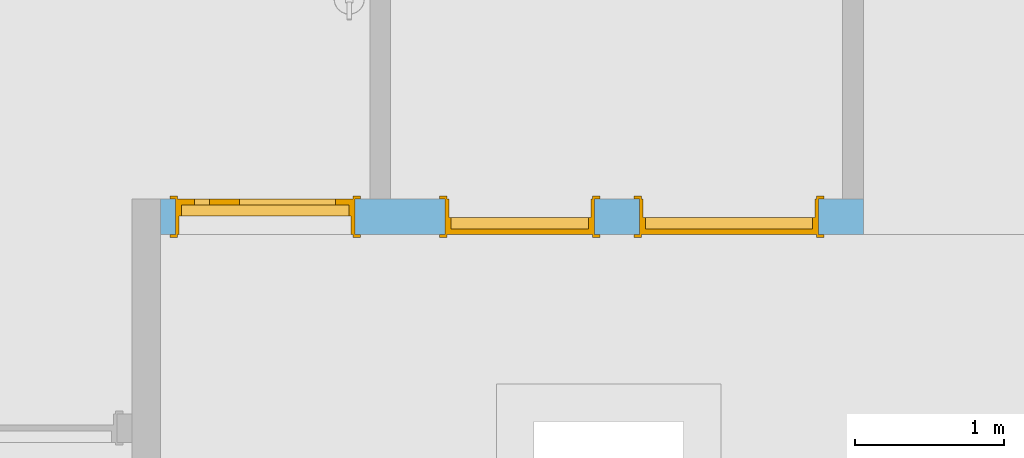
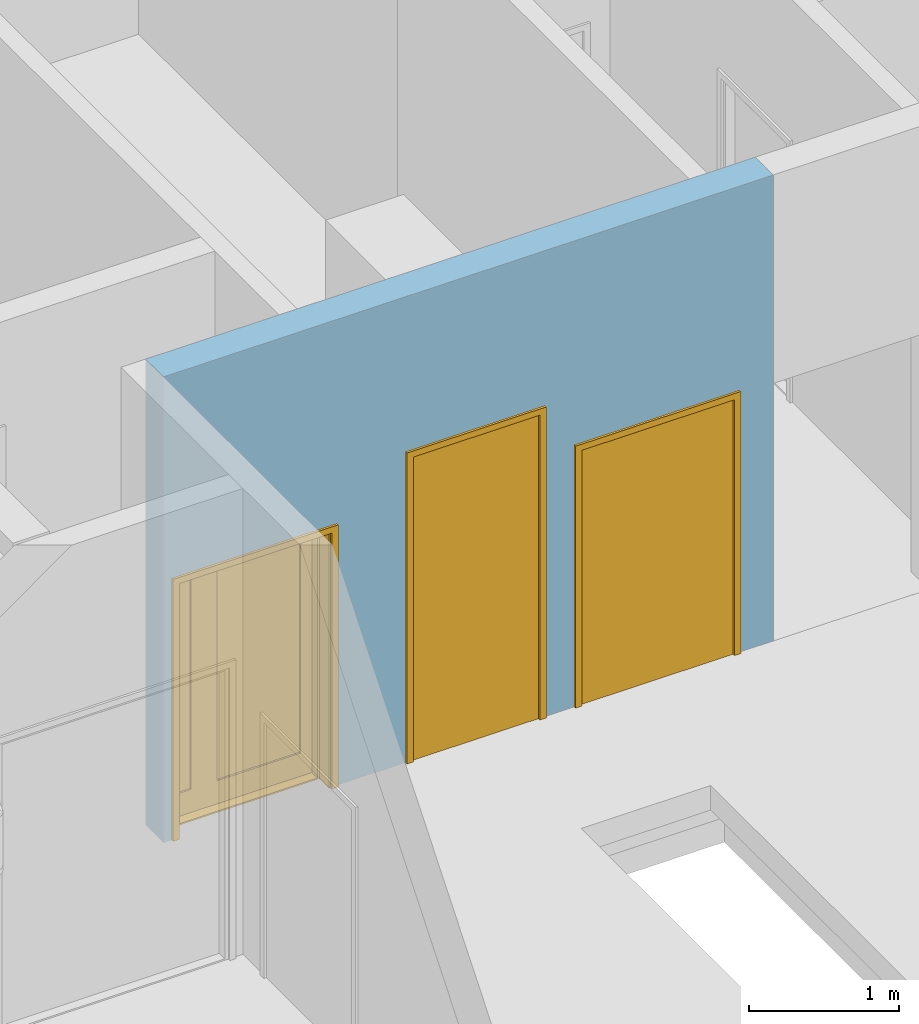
# One storey, part 40 of 112: 3 doors, 3 openings, plus 1 element that does not belong to this part.
"""IFC2X3 building model written with IfcOpenShell, lengths in millimetres."""

from ifc_helpers import new_model, entity, si_unit, converted_unit, derived_unit, money_unit, direction, frame, origin_with_axes, origin_2d_with_axis, place, context, subcontext, project, spatial, polyline, rectangle, outline, extrude, open_shell, faceted_brep, surface_model, material, layer, layer_set, layer_usage, type_object, element, fill, save


model = new_model("IFC2X3")

# Units and contexts
model_context = context("Model", 3, precision=0.01, world=origin_with_axes(), true_north=direction((0.0, 1.0)))
body_context = subcontext(model_context, "Body", "Model", "MODEL_VIEW")
ifc_project = project(units=[si_unit("LENGTHUNIT", "METRE", prefix="MILLI"), si_unit("AREAUNIT", "SQUARE_METRE"), si_unit("VOLUMEUNIT", "CUBIC_METRE"), converted_unit("PLANEANGLEUNIT", "DEGREE", entity("IfcPlaneAngleMeasure", 0.0174532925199), si_unit("PLANEANGLEUNIT", "RADIAN"), dimensions=[0, 0, 0, 0, 0, 0, 0]), si_unit("SOLIDANGLEUNIT", "STERADIAN"), money_unit("EUR"), converted_unit("TIMEUNIT", "Year", entity("IfcTimeMeasure", 31556926.0), si_unit("TIMEUNIT", "SECOND"), dimensions=[0, 0, 1, 0, 0, 0, 0]), si_unit("MASSUNIT", "GRAM", prefix="KILO"), si_unit("THERMODYNAMICTEMPERATUREUNIT", "DEGREE_CELSIUS"), si_unit("LUMINOUSINTENSITYUNIT", "LUMEN"), si_unit("ENERGYUNIT", "JOULE", prefix="MEGA"), derived_unit("THERMALCONDUCTANCEUNIT", [(si_unit("POWERUNIT", "WATT"), 1), (si_unit("LENGTHUNIT", "METRE"), -1), (si_unit("THERMODYNAMICTEMPERATUREUNIT", "KELVIN"), -1)]), derived_unit("SPECIFICHEATCAPACITYUNIT", [(si_unit("ENERGYUNIT", "JOULE"), 1), (si_unit("MASSUNIT", "GRAM", prefix="KILO"), -1), (si_unit("THERMODYNAMICTEMPERATUREUNIT", "KELVIN"), -1)]), derived_unit("MASSDENSITYUNIT", [(si_unit("MASSUNIT", "GRAM", prefix="KILO"), 1), (si_unit("VOLUMEUNIT", "CUBIC_METRE"), -1)])], contexts=[model_context])

# Site, building, storey
site_placement = place(None, origin_with_axes())
site = spatial("IfcSite", under=ifc_project, at=site_placement, Name="Politse- ja Piirivalveameti ning Päästeameti ühishoone", CompositionType="ELEMENT")
building_placement = place(site_placement, origin_with_axes())
building = spatial("IfcBuilding", under=site, at=building_placement, Name="Politse- ja Piirivalveameti ning Päästeameti ühishoone", CompositionType="ELEMENT")
storey_placement = place(building_placement, origin_with_axes())
storey = spatial("IfcBuildingStorey", under=building, at=storey_placement, Name="Esimene korrus", CompositionType="ELEMENT", Elevation=0.0)

# Wall, openings, doors
ifc_material = material(Name="KON-05_Betoon Plokk - Konstuktsioon")
ifc_layer = layer(ifc_material, 240.0, ventilated="UNKNOWN")
ifc_layer_set = layer_set([ifc_layer], Name="SS-04_Sisesein 240")
ifc_layer_usage = layer_usage(ifc_layer_set, "AXIS2", "NEGATIVE", 0.0)
wall_type = type_object("IfcWallType", Name="SS-04_Sisesein 240 240", PredefinedType="NOTDEFINED")
wall_placement = place(storey_placement, frame((26759.7008828, 13000.0198611, 0.0), z_axis=(0.0, 0.0, 1.0), x_axis=(1.0, 0.0, 0.0)))
wall = element("IfcWallStandardCase", 1, at=wall_placement, inside=storey, type_object=wall_type, material=ifc_layer_usage, Name="SS-04", context=body_context, shape_type="SweptSolid", body=[
    extrude(outline(polyline([(0.0, -240.0), (4705.00916667, -240.0), (4705.00916667, 0.0), (0.0, 0.0), (0.0, -240.0)])), origin_with_axes(), (0.0, 0.0, 1.0), 3800.0),
])
opening_1_placement = place(wall_placement, frame((699.995165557, 0.0, 0.0), z_axis=(0.0, 0.0, 1.0), x_axis=(1.0, 0.0, 0.0)))
opening_1 = element("IfcOpeningElement", 2, at=opening_1_placement, cuts=wall, Name="TU-01-1", context=body_context, shape_type="SweptSolid", body=[
    extrude(rectangle(XDim=1200.0, YDim=2100.0, at=origin_2d_with_axis()), frame((0.0, -240.0, 1050.0), z_axis=(0.0, -1.0, 0.0), x_axis=(-1.0, 0.0, 0.0)), (0.0, 0.0, -1.0), 720.0),
    extrude(rectangle(XDim=1274.0, YDim=2137.0, at=origin_2d_with_axis()), frame((0.0, -240.0, 1068.5), z_axis=(0.0, -1.0, 0.0), x_axis=(-1.0, 0.0, 0.0)), (0.0, 0.0, 1.0), 240.0),
    extrude(rectangle(XDim=1274.0, YDim=2137.0, at=origin_2d_with_axis()), frame((0.0, 0.0, 1068.5), z_axis=(0.0, 1.0, 0.0), x_axis=(-1.0, 0.0, 0.0)), (0.0, 0.0, 1.0), 240.0),
])
opening_2_placement = place(wall_placement, frame((3805.23795516, 0.0, 0.0), z_axis=(0.0, 0.0, 1.0), x_axis=(1.0, 0.0, 0.0)))
opening_2 = element("IfcOpeningElement", 3, at=opening_2_placement, cuts=wall, Name="TU-01-2", context=body_context, shape_type="SweptSolid", body=[
    extrude(rectangle(XDim=1200.0, YDim=2100.0, at=origin_2d_with_axis()), frame((0.0, 240.0, 1050.0), z_axis=(0.0, -1.0, 0.0), x_axis=(-1.0, 0.0, 0.0)), (0.0, 0.0, 1.0), 720.0),
    extrude(rectangle(XDim=1274.0, YDim=2137.0, at=origin_2d_with_axis()), frame((0.0, 0.0, 1068.5), z_axis=(0.0, -1.0, 0.0), x_axis=(-1.0, 0.0, 0.0)), (0.0, 0.0, -1.0), 240.0),
    extrude(rectangle(XDim=1274.0, YDim=2137.0, at=origin_2d_with_axis()), frame((0.0, -240.0, 1068.5), z_axis=(0.0, 1.0, 0.0), x_axis=(-1.0, 0.0, 0.0)), (0.0, 0.0, -1.0), 240.0),
])
opening_3_placement = place(wall_placement, frame((2404.80595956, 0.0, 0.0), z_axis=(0.0, 0.0, 1.0), x_axis=(1.0, 0.0, 0.0)))
opening_3 = element("IfcOpeningElement", 4, at=opening_3_placement, cuts=wall, Name="TU-01-12", context=body_context, shape_type="SweptSolid", body=[
    extrude(rectangle(XDim=1000.0, YDim=2500.0, at=origin_2d_with_axis()), frame((0.0, 240.0, 1250.0), z_axis=(0.0, -1.0, 0.0), x_axis=(-1.0, 0.0, 0.0)), (0.0, 0.0, 1.0), 720.0),
    extrude(rectangle(XDim=1074.0, YDim=2537.0, at=origin_2d_with_axis()), frame((0.0, 0.0, 1268.5), z_axis=(0.0, -1.0, 0.0), x_axis=(-1.0, 0.0, 0.0)), (0.0, 0.0, -1.0), 240.0),
    extrude(rectangle(XDim=1074.0, YDim=2537.0, at=origin_2d_with_axis()), frame((0.0, -240.0, 1268.5), z_axis=(0.0, 1.0, 0.0), x_axis=(-1.0, 0.0, 0.0)), (0.0, 0.0, -1.0), 240.0),
])
door_style_1 = type_object("IfcDoorStyle", Name="Double Door Asymmetric 23", ConstructionType="NOTDEFINED", OperationType="DOUBLE_DOOR_SINGLE_SWING", ParameterTakesPrecedence=False, Sizeable=False)
door_1_placement = place(opening_1_placement, frame((-600.0, 0.0, 0.0), z_axis=(0.0, 0.0, 1.0), x_axis=(1.0, 0.0, 0.0)))
door_1 = element("IfcDoor", 5, at=door_1_placement, inside=storey, type_object=door_style_1, Name="TU-01-1", ObjectType="DOOR", OverallHeight=2100.0, OverallWidth=1200.0, context=body_context, shape_type="SurfaceModel", body=[
    faceted_brep([(28.0, -40.0, 0.0), (40.0, -40.0, 0.0), (40.0, -40.0, 12.0), (28.0, -40.0, 12.0), (1172.0, -40.0, 0.0), (1160.0, -40.0, 0.0), (1160.0, -115.0, 0.0), (40.0, -115.0, 0.0), (40.0, -115.0, 12.0), (1160.0, -115.0, 12.0), (1160.0, -40.0, 12.0), (1172.0, -40.0, 12.0)], [[[0, 1, 2, 3]], [[0, 4, 5, 6, 7, 1]], [[1, 7, 8, 2]], [[3, 2, 8, 9, 10, 11]], [[4, 0, 3, 11]], [[5, 4, 11, 10]], [[6, 5, 10, 9]], [[7, 6, 9, 8]]]),
    faceted_brep([(1200.0, -115.0, 0.0), (1200.0, -240.0, 0.0), (1175.0, -240.0, 0.0), (1175.0, -115.0, 0.0), (1200.0, -115.0, 2100.0), (1200.0, -240.0, 2100.0), (1175.0, -240.0, 2075.0), (1175.0, -115.0, 2075.0)], [[[0, 1, 2, 3]], [[4, 5, 1, 0]], [[1, 5, 6, 2]], [[3, 2, 6, 7]], [[0, 3, 7, 4]], [[7, 6, 5, 4]]]),
    faceted_brep([(0.0, -115.0, 2100.0), (0.0, -240.0, 2100.0), (25.0, -240.0, 2075.0), (25.0, -115.0, 2075.0), (0.0, -115.0, 0.0), (0.0, -240.0, 0.0), (25.0, -240.0, 0.0), (25.0, -115.0, 0.0)], [[[0, 1, 2, 3]], [[4, 5, 1, 0]], [[1, 5, 6, 2]], [[3, 2, 6, 7]], [[0, 3, 7, 4]], [[7, 6, 5, 4]]]),
    faceted_brep([(1175.0, -115.0, 2075.0), (1175.0, -240.0, 2075.0), (25.0, -240.0, 2075.0), (25.0, -115.0, 2075.0), (1200.0, -115.0, 2100.0), (1200.0, -240.0, 2100.0), (0.0, -240.0, 2100.0), (0.0, -115.0, 2100.0)], [[[0, 1, 2, 3]], [[4, 5, 1, 0]], [[1, 5, 6, 2]], [[3, 2, 6, 7]], [[0, 3, 7, 4]], [[7, 6, 5, 4]]]),
    faceted_brep([(1237.0, -259.0, 0.0), (1187.0, -259.0, 0.0), (1187.0, -240.0, 0.0), (1237.0, -240.0, 0.0), (1237.0, -259.0, 2137.0), (1187.0, -259.0, 2087.0), (1187.0, -240.0, 2087.0), (1237.0, -240.0, 2137.0)], [[[0, 1, 2, 3]], [[0, 4, 5, 1]], [[1, 5, 6, 2]], [[3, 2, 6, 7]], [[4, 0, 3, 7]], [[5, 4, 7, 6]]]),
    faceted_brep([(-37.0, -259.0, 2137.0), (13.0, -259.0, 2087.0), (13.0, -240.0, 2087.0), (-37.0, -240.0, 2137.0), (-37.0, -259.0, 0.0), (13.0, -259.0, 0.0), (13.0, -240.0, 0.0), (-37.0, -240.0, 0.0)], [[[0, 1, 2, 3]], [[0, 4, 5, 1]], [[1, 5, 6, 2]], [[3, 2, 6, 7]], [[4, 0, 3, 7]], [[5, 4, 7, 6]]]),
    faceted_brep([(1237.0, -259.0, 2137.0), (1187.0, -259.0, 2087.0), (1187.0, -240.0, 2087.0), (1237.0, -240.0, 2137.0), (-37.0, -259.0, 2137.0), (13.0, -259.0, 2087.0), (13.0, -240.0, 2087.0), (-37.0, -240.0, 2137.0)], [[[0, 1, 2, 3]], [[0, 4, 5, 1]], [[1, 5, 6, 2]], [[3, 2, 6, 7]], [[4, 0, 3, 7]], [[5, 4, 7, 6]]]),
    faceted_brep([(1237.0, 19.0, 0.0), (1237.0, 0.0, 0.0), (1187.0, 0.0, 0.0), (1187.0, 19.0, 0.0), (1237.0, 19.0, 2137.0), (1237.0, 0.0, 2137.0), (1187.0, 0.0, 2087.0), (1187.0, 19.0, 2087.0)], [[[0, 1, 2, 3]], [[4, 5, 1, 0]], [[1, 5, 6, 2]], [[3, 2, 6, 7]], [[0, 3, 7, 4]], [[7, 6, 5, 4]]]),
    faceted_brep([(-37.0, 19.0, 2137.0), (-37.0, 0.0, 2137.0), (13.0, 0.0, 2087.0), (13.0, 19.0, 2087.0), (-37.0, 19.0, 0.0), (-37.0, 0.0, 0.0), (13.0, 0.0, 0.0), (13.0, 19.0, 0.0)], [[[0, 1, 2, 3]], [[4, 5, 1, 0]], [[1, 5, 6, 2]], [[3, 2, 6, 7]], [[0, 3, 7, 4]], [[7, 6, 5, 4]]]),
    faceted_brep([(1237.0, 19.0, 2137.0), (1237.0, 0.0, 2137.0), (1187.0, 0.0, 2087.0), (1187.0, 19.0, 2087.0), (-37.0, 19.0, 2137.0), (-37.0, 0.0, 2137.0), (13.0, 0.0, 2087.0), (13.0, 19.0, 2087.0)], [[[0, 1, 2, 3]], [[4, 5, 1, 0]], [[1, 5, 6, 2]], [[3, 2, 6, 7]], [[0, 3, 7, 4]], [[7, 6, 5, 4]]]),
    faceted_brep([(1160.0, -40.0, 0.0), (1160.0, -115.0, 0.0), (1160.0, -115.0, 2060.0), (1160.0, -40.0, 2060.0), (1172.0, -40.0, 0.0), (1172.0, 0.0, 0.0), (1200.0, 0.0, 0.0), (1200.0, -115.0, 0.0), (1200.0, -115.0, 2060.0), (1172.0, -40.0, 2060.0), (1200.0, 0.0, 2060.0), (1172.0, 0.0, 2060.0)], [[[0, 1, 2, 3]], [[4, 5, 6, 7, 1, 0]], [[1, 7, 8, 2]], [[9, 3, 2, 8, 10, 11]], [[9, 4, 0, 3]], [[11, 5, 4, 9]], [[11, 10, 6, 5]], [[6, 10, 8, 7]]]),
    faceted_brep([(28.0, -40.0, 2060.0), (28.0, 0.0, 2060.0), (0.0, 0.0, 2060.0), (0.0, -115.0, 2060.0), (40.0, -115.0, 2060.0), (40.0, -40.0, 2060.0), (28.0, -40.0, 0.0), (28.0, 0.0, 0.0), (0.0, 0.0, 0.0), (0.0, -115.0, 0.0), (40.0, -115.0, 0.0), (40.0, -40.0, 0.0)], [[[0, 1, 2, 3, 4, 5]], [[0, 6, 7, 1]], [[7, 8, 2, 1]], [[2, 8, 9, 3]], [[3, 9, 10, 4]], [[5, 4, 10, 11]], [[5, 11, 6, 0]], [[6, 11, 10, 9, 8, 7]]]),
    faceted_brep([(1172.0, 0.0, 2072.0), (28.0, 0.0, 2072.0), (28.0, 0.0, 2060.0), (0.0, 0.0, 2060.0), (0.0, 0.0, 2100.0), (1200.0, 0.0, 2100.0), (1200.0, 0.0, 2060.0), (1172.0, 0.0, 2060.0), (1172.0, -40.0, 2072.0), (28.0, -40.0, 2072.0), (28.0, -40.0, 2060.0), (40.0, -40.0, 2060.0), (40.0, -115.0, 2060.0), (0.0, -115.0, 2060.0), (0.0, -115.0, 2100.0), (1200.0, -115.0, 2100.0), (1200.0, -115.0, 2060.0), (1172.0, -40.0, 2060.0), (1160.0, -115.0, 2060.0), (1160.0, -40.0, 2060.0)], [[[0, 1, 2, 3, 4, 5, 6, 7]], [[0, 8, 9, 1]], [[1, 9, 10, 2]], [[10, 11, 12, 13, 3, 2]], [[4, 3, 13, 14]], [[5, 4, 14, 15]], [[6, 5, 15, 16]], [[17, 7, 6, 16, 18, 19]], [[7, 17, 8, 0]], [[10, 9, 8, 17, 19, 11]], [[19, 18, 12, 11]], [[12, 18, 16, 15, 14, 13]]]),
    faceted_brep([(28.0, 0.0, 200.0), (128.0, 0.0, 200.0), (128.0, -40.0, 200.0), (28.0, -40.0, 200.0), (28.0, 0.0, 1972.0), (128.0, 0.0, 1972.0), (128.0, -40.0, 1972.0), (28.0, -40.0, 1972.0)], [[[0, 1, 2, 3]], [[0, 4, 5, 1]], [[1, 5, 6, 2]], [[3, 2, 6, 7]], [[4, 0, 3, 7]], [[5, 4, 7, 6]]]),
    faceted_brep([(328.0, 0.0, 200.0), (328.0, 0.0, 1972.0), (328.0, -40.0, 1972.0), (328.0, -40.0, 200.0), (228.0, 0.0, 200.0), (228.0, 0.0, 1972.0), (228.0, -40.0, 1972.0), (228.0, -40.0, 200.0)], [[[0, 1, 2, 3]], [[0, 4, 5, 1]], [[1, 5, 6, 2]], [[3, 2, 6, 7]], [[4, 0, 3, 7]], [[5, 4, 7, 6]]]),
    faceted_brep([(28.0, 0.0, 0.0), (328.0, 0.0, 0.0), (328.0, -40.0, 0.0), (28.0, -40.0, 0.0), (28.0, 0.0, 200.0), (128.0, 0.0, 200.0), (228.0, 0.0, 200.0), (328.0, 0.0, 200.0), (328.0, -40.0, 200.0), (228.0, -40.0, 200.0), (128.0, -40.0, 200.0), (28.0, -40.0, 200.0)], [[[0, 1, 2, 3]], [[0, 4, 5, 6, 7, 1]], [[1, 7, 8, 2]], [[3, 2, 8, 9, 10, 11]], [[4, 0, 3, 11]], [[5, 4, 11, 10]], [[6, 5, 10, 9]], [[7, 6, 9, 8]]]),
    faceted_brep([(28.0, 0.0, 2072.0), (28.0, 0.0, 1972.0), (28.0, -40.0, 1972.0), (28.0, -40.0, 2072.0), (328.0, 0.0, 2072.0), (328.0, 0.0, 1972.0), (228.0, 0.0, 1972.0), (128.0, 0.0, 1972.0), (128.0, -40.0, 1972.0), (228.0, -40.0, 1972.0), (328.0, -40.0, 1972.0), (328.0, -40.0, 2072.0)], [[[0, 1, 2, 3]], [[0, 4, 5, 6, 7, 1]], [[1, 7, 8, 2]], [[3, 2, 8, 9, 10, 11]], [[4, 0, 3, 11]], [[5, 4, 11, 10]], [[6, 5, 10, 9]], [[7, 6, 9, 8]]]),
    surface_model("IfcShellBasedSurfaceModel", [(128.0, -14.0, 200.0), (128.0, -14.0, 1972.0), (228.0, -14.0, 1972.0), (228.0, -14.0, 200.0)], [open_shell([[[0, 1, 2, 3]]])]),
    surface_model("IfcShellBasedSurfaceModel", [(128.0, -26.0, 200.0), (228.0, -26.0, 200.0), (228.0, -26.0, 1972.0), (128.0, -26.0, 1972.0)], [open_shell([[[0, 1, 2, 3]]])]),
    faceted_brep([(1172.0, 0.0, 200.0), (1172.0, -40.0, 200.0), (1072.0, -40.0, 200.0), (1072.0, 0.0, 200.0), (1172.0, 0.0, 1972.0), (1172.0, -40.0, 1972.0), (1072.0, -40.0, 1972.0), (1072.0, 0.0, 1972.0)], [[[0, 1, 2, 3]], [[4, 5, 1, 0]], [[1, 5, 6, 2]], [[3, 2, 6, 7]], [[0, 3, 7, 4]], [[7, 6, 5, 4]]]),
    faceted_brep([(328.0, 0.0, 200.0), (328.0, -40.0, 200.0), (328.0, -40.0, 1972.0), (328.0, 0.0, 1972.0), (428.0, 0.0, 200.0), (428.0, -40.0, 200.0), (428.0, -40.0, 1972.0), (428.0, 0.0, 1972.0)], [[[0, 1, 2, 3]], [[4, 5, 1, 0]], [[1, 5, 6, 2]], [[3, 2, 6, 7]], [[0, 3, 7, 4]], [[7, 6, 5, 4]]]),
    faceted_brep([(1172.0, 0.0, 0.0), (1172.0, -40.0, 0.0), (328.0, -40.0, 0.0), (328.0, 0.0, 0.0), (1172.0, 0.0, 200.0), (1172.0, -40.0, 200.0), (1072.0, -40.0, 200.0), (428.0, -40.0, 200.0), (328.0, -40.0, 200.0), (328.0, 0.0, 200.0), (428.0, 0.0, 200.0), (1072.0, 0.0, 200.0)], [[[0, 1, 2, 3]], [[4, 5, 1, 0]], [[1, 5, 6, 7, 8, 2]], [[3, 2, 8, 9]], [[0, 3, 9, 10, 11, 4]], [[11, 6, 5, 4]], [[10, 7, 6, 11]], [[9, 8, 7, 10]]]),
    faceted_brep([(1172.0, 0.0, 2072.0), (1172.0, -40.0, 2072.0), (1172.0, -40.0, 1972.0), (1172.0, 0.0, 1972.0), (328.0, 0.0, 2072.0), (328.0, -40.0, 2072.0), (328.0, -40.0, 1972.0), (428.0, -40.0, 1972.0), (1072.0, -40.0, 1972.0), (1072.0, 0.0, 1972.0), (428.0, 0.0, 1972.0), (328.0, 0.0, 1972.0)], [[[0, 1, 2, 3]], [[4, 5, 1, 0]], [[1, 5, 6, 7, 8, 2]], [[3, 2, 8, 9]], [[0, 3, 9, 10, 11, 4]], [[11, 6, 5, 4]], [[10, 7, 6, 11]], [[9, 8, 7, 10]]]),
    surface_model("IfcShellBasedSurfaceModel", [(1072.0, -14.0, 200.0), (428.0, -14.0, 200.0), (428.0, -14.0, 1972.0), (1072.0, -14.0, 1972.0)], [open_shell([[[0, 1, 2, 3]]])]),
    surface_model("IfcShellBasedSurfaceModel", [(1072.0, -26.0, 200.0), (1072.0, -26.0, 1972.0), (428.0, -26.0, 1972.0), (428.0, -26.0, 200.0)], [open_shell([[[0, 1, 2, 3]]])]),
])
fill(opening_1, door_1)
door_style_2 = type_object("IfcDoorStyle", Name="Double Door Asymmetric 23", ConstructionType="NOTDEFINED", OperationType="DOUBLE_DOOR_SINGLE_SWING", ParameterTakesPrecedence=False, Sizeable=False)
door_2_placement = place(opening_2_placement, frame((600.0, 0.0, 0.0), z_axis=(0.0, 0.0, 1.0), x_axis=(-1.0, 0.0, 0.0)))
door_2 = element("IfcDoor", 6, at=door_2_placement, inside=storey, type_object=door_style_2, Name="TU-01-2", ObjectType="DOOR", OverallHeight=2100.0, OverallWidth=1200.0, context=body_context, shape_type="Brep", body=[
    faceted_brep([(1172.0, 200.0, 0.0), (1172.0, 200.0, 12.0), (1160.0, 200.0, 12.0), (1160.0, 200.0, 0.0), (28.0, 200.0, 0.0), (28.0, 200.0, 12.0), (40.0, 200.0, 12.0), (40.0, 125.0, 12.0), (1160.0, 125.0, 12.0), (1160.0, 125.0, 0.0), (40.0, 125.0, 0.0), (40.0, 200.0, 0.0)], [[[0, 1, 2, 3]], [[4, 5, 1, 0]], [[1, 5, 6, 7, 8, 2]], [[3, 2, 8, 9]], [[0, 3, 9, 10, 11, 4]], [[11, 6, 5, 4]], [[10, 7, 6, 11]], [[9, 8, 7, 10]]]),
    faceted_brep([(0.0, 125.0, 0.0), (25.0, 125.0, 0.0), (25.0, 0.0, 0.0), (0.0, 0.0, 0.0), (0.0, 125.0, 2100.0), (25.0, 125.0, 2075.0), (25.0, 0.0, 2075.0), (0.0, 0.0, 2100.0)], [[[0, 1, 2, 3]], [[0, 4, 5, 1]], [[1, 5, 6, 2]], [[3, 2, 6, 7]], [[4, 0, 3, 7]], [[5, 4, 7, 6]]]),
    faceted_brep([(1200.0, 125.0, 2100.0), (1175.0, 125.0, 2075.0), (1175.0, 0.0, 2075.0), (1200.0, 0.0, 2100.0), (1200.0, 125.0, 0.0), (1175.0, 125.0, 0.0), (1175.0, 0.0, 0.0), (1200.0, 0.0, 0.0)], [[[0, 1, 2, 3]], [[0, 4, 5, 1]], [[1, 5, 6, 2]], [[3, 2, 6, 7]], [[4, 0, 3, 7]], [[5, 4, 7, 6]]]),
    faceted_brep([(25.0, 125.0, 2075.0), (1175.0, 125.0, 2075.0), (1175.0, 0.0, 2075.0), (25.0, 0.0, 2075.0), (0.0, 125.0, 2100.0), (1200.0, 125.0, 2100.0), (1200.0, 0.0, 2100.0), (0.0, 0.0, 2100.0)], [[[0, 1, 2, 3]], [[0, 4, 5, 1]], [[1, 5, 6, 2]], [[3, 2, 6, 7]], [[4, 0, 3, 7]], [[5, 4, 7, 6]]]),
    faceted_brep([(-37.0, -19.0, 0.0), (-37.0, 0.0, 0.0), (13.0, 0.0, 0.0), (13.0, -19.0, 0.0), (-37.0, -19.0, 2137.0), (-37.0, 0.0, 2137.0), (13.0, 0.0, 2087.0), (13.0, -19.0, 2087.0)], [[[0, 1, 2, 3]], [[4, 5, 1, 0]], [[1, 5, 6, 2]], [[3, 2, 6, 7]], [[0, 3, 7, 4]], [[7, 6, 5, 4]]]),
    faceted_brep([(1237.0, -19.0, 2137.0), (1237.0, 0.0, 2137.0), (1187.0, 0.0, 2087.0), (1187.0, -19.0, 2087.0), (1237.0, -19.0, 0.0), (1237.0, 0.0, 0.0), (1187.0, 0.0, 0.0), (1187.0, -19.0, 0.0)], [[[0, 1, 2, 3]], [[4, 5, 1, 0]], [[1, 5, 6, 2]], [[3, 2, 6, 7]], [[0, 3, 7, 4]], [[7, 6, 5, 4]]]),
    faceted_brep([(-37.0, -19.0, 2137.0), (-37.0, 0.0, 2137.0), (13.0, 0.0, 2087.0), (13.0, -19.0, 2087.0), (1237.0, -19.0, 2137.0), (1237.0, 0.0, 2137.0), (1187.0, 0.0, 2087.0), (1187.0, -19.0, 2087.0)], [[[0, 1, 2, 3]], [[4, 5, 1, 0]], [[1, 5, 6, 2]], [[3, 2, 6, 7]], [[0, 3, 7, 4]], [[7, 6, 5, 4]]]),
    faceted_brep([(-37.0, 259.0, 0.0), (13.0, 259.0, 0.0), (13.0, 240.0, 0.0), (-37.0, 240.0, 0.0), (-37.0, 259.0, 2137.0), (13.0, 259.0, 2087.0), (13.0, 240.0, 2087.0), (-37.0, 240.0, 2137.0)], [[[0, 1, 2, 3]], [[0, 4, 5, 1]], [[1, 5, 6, 2]], [[3, 2, 6, 7]], [[4, 0, 3, 7]], [[5, 4, 7, 6]]]),
    faceted_brep([(1237.0, 259.0, 2137.0), (1187.0, 259.0, 2087.0), (1187.0, 240.0, 2087.0), (1237.0, 240.0, 2137.0), (1237.0, 259.0, 0.0), (1187.0, 259.0, 0.0), (1187.0, 240.0, 0.0), (1237.0, 240.0, 0.0)], [[[0, 1, 2, 3]], [[0, 4, 5, 1]], [[1, 5, 6, 2]], [[3, 2, 6, 7]], [[4, 0, 3, 7]], [[5, 4, 7, 6]]]),
    faceted_brep([(-37.0, 259.0, 2137.0), (13.0, 259.0, 2087.0), (13.0, 240.0, 2087.0), (-37.0, 240.0, 2137.0), (1237.0, 259.0, 2137.0), (1187.0, 259.0, 2087.0), (1187.0, 240.0, 2087.0), (1237.0, 240.0, 2137.0)], [[[0, 1, 2, 3]], [[0, 4, 5, 1]], [[1, 5, 6, 2]], [[3, 2, 6, 7]], [[4, 0, 3, 7]], [[5, 4, 7, 6]]]),
    faceted_brep([(40.0, 200.0, 0.0), (40.0, 200.0, 2060.0), (40.0, 125.0, 2060.0), (40.0, 125.0, 0.0), (28.0, 200.0, 2060.0), (28.0, 200.0, 0.0), (28.0, 240.0, 2060.0), (0.0, 240.0, 2060.0), (0.0, 125.0, 2060.0), (0.0, 125.0, 0.0), (0.0, 240.0, 0.0), (28.0, 240.0, 0.0)], [[[0, 1, 2, 3]], [[4, 1, 0, 5]], [[4, 6, 7, 8, 2, 1]], [[3, 2, 8, 9]], [[5, 0, 3, 9, 10, 11]], [[6, 4, 5, 11]], [[6, 11, 10, 7]], [[10, 9, 8, 7]]]),
    faceted_brep([(1172.0, 200.0, 2060.0), (1160.0, 200.0, 2060.0), (1160.0, 125.0, 2060.0), (1200.0, 125.0, 2060.0), (1200.0, 240.0, 2060.0), (1172.0, 240.0, 2060.0), (1172.0, 200.0, 0.0), (1160.0, 200.0, 0.0), (1160.0, 125.0, 0.0), (1200.0, 125.0, 0.0), (1200.0, 240.0, 0.0), (1172.0, 240.0, 0.0)], [[[0, 1, 2, 3, 4, 5]], [[1, 0, 6, 7]], [[1, 7, 8, 2]], [[3, 2, 8, 9]], [[4, 3, 9, 10]], [[11, 5, 4, 10]], [[0, 5, 11, 6]], [[6, 11, 10, 9, 8, 7]]]),
    faceted_brep([(28.0, 240.0, 2072.0), (28.0, 240.0, 2060.0), (0.0, 240.0, 2060.0), (0.0, 240.0, 2100.0), (1200.0, 240.0, 2100.0), (1200.0, 240.0, 2060.0), (1172.0, 240.0, 2060.0), (1172.0, 240.0, 2072.0), (28.0, 200.0, 2072.0), (28.0, 200.0, 2060.0), (40.0, 200.0, 2060.0), (40.0, 125.0, 2060.0), (0.0, 125.0, 2060.0), (0.0, 125.0, 2100.0), (1200.0, 125.0, 2100.0), (1200.0, 125.0, 2060.0), (1172.0, 200.0, 2060.0), (1160.0, 125.0, 2060.0), (1160.0, 200.0, 2060.0), (1172.0, 200.0, 2072.0)], [[[0, 1, 2, 3, 4, 5, 6, 7]], [[1, 0, 8, 9]], [[9, 10, 11, 12, 2, 1]], [[2, 12, 13, 3]], [[3, 13, 14, 4]], [[4, 14, 15, 5]], [[16, 6, 5, 15, 17, 18]], [[7, 6, 16, 19]], [[0, 7, 19, 8]], [[16, 18, 10, 9, 8, 19]], [[10, 18, 17, 11]], [[17, 15, 14, 13, 12, 11]]]),
    faceted_brep([(1172.0, 240.0, 0.0), (1172.0, 200.0, 0.0), (872.0, 200.0, 0.0), (872.0, 240.0, 0.0), (1172.0, 240.0, 2072.0), (1172.0, 200.0, 2072.0), (872.0, 200.0, 2072.0), (872.0, 240.0, 2072.0)], [[[0, 1, 2, 3]], [[4, 5, 1, 0]], [[1, 5, 6, 2]], [[3, 2, 6, 7]], [[0, 3, 7, 4]], [[7, 6, 5, 4]]]),
    faceted_brep([(28.0, 240.0, 0.0), (872.0, 240.0, 0.0), (872.0, 200.0, 0.0), (28.0, 200.0, 0.0), (28.0, 240.0, 2072.0), (872.0, 240.0, 2072.0), (872.0, 200.0, 2072.0), (28.0, 200.0, 2072.0)], [[[0, 1, 2, 3]], [[0, 4, 5, 1]], [[1, 5, 6, 2]], [[3, 2, 6, 7]], [[4, 0, 3, 7]], [[5, 4, 7, 6]]]),
])
fill(opening_2, door_2)
door_style_3 = type_object("IfcDoorStyle", Name="Door 23", ConstructionType="NOTDEFINED", OperationType="SINGLE_SWING_RIGHT", ParameterTakesPrecedence=False, Sizeable=False)
door_3_placement = place(opening_3_placement, frame((500.0, 0.0, 0.0), z_axis=(0.0, 0.0, 1.0), x_axis=(-1.0, 0.0, 0.0)))
door_3 = element("IfcDoor", 7, at=door_3_placement, inside=storey, type_object=door_style_3, Name="TU-01-12", ObjectType="DOOR", OverallHeight=2500.0, OverallWidth=1000.0, context=body_context, shape_type="Brep", body=[
    faceted_brep([(972.0, 200.0, 0.0), (972.0, 200.0, 12.0), (960.0, 200.0, 12.0), (960.0, 200.0, 0.0), (28.0, 200.0, 0.0), (28.0, 200.0, 12.0), (40.0, 200.0, 12.0), (40.0, 125.0, 12.0), (960.0, 125.0, 12.0), (960.0, 125.0, 0.0), (40.0, 125.0, 0.0), (40.0, 200.0, 0.0)], [[[0, 1, 2, 3]], [[4, 5, 1, 0]], [[1, 5, 6, 7, 8, 2]], [[3, 2, 8, 9]], [[0, 3, 9, 10, 11, 4]], [[11, 6, 5, 4]], [[10, 7, 6, 11]], [[9, 8, 7, 10]]]),
    faceted_brep([(0.0, 125.0, 0.0), (25.0, 125.0, 0.0), (25.0, 0.0, 0.0), (0.0, 0.0, 0.0), (0.0, 125.0, 2500.0), (25.0, 125.0, 2475.0), (25.0, 0.0, 2475.0), (0.0, 0.0, 2500.0)], [[[0, 1, 2, 3]], [[0, 4, 5, 1]], [[1, 5, 6, 2]], [[3, 2, 6, 7]], [[4, 0, 3, 7]], [[5, 4, 7, 6]]]),
    faceted_brep([(1000.0, 125.0, 2500.0), (975.0, 125.0, 2475.0), (975.0, 0.0, 2475.0), (1000.0, 0.0, 2500.0), (1000.0, 125.0, 0.0), (975.0, 125.0, 0.0), (975.0, 0.0, 0.0), (1000.0, 0.0, 0.0)], [[[0, 1, 2, 3]], [[0, 4, 5, 1]], [[1, 5, 6, 2]], [[3, 2, 6, 7]], [[4, 0, 3, 7]], [[5, 4, 7, 6]]]),
    faceted_brep([(25.0, 125.0, 2475.0), (975.0, 125.0, 2475.0), (975.0, 0.0, 2475.0), (25.0, 0.0, 2475.0), (0.0, 125.0, 2500.0), (1000.0, 125.0, 2500.0), (1000.0, 0.0, 2500.0), (0.0, 0.0, 2500.0)], [[[0, 1, 2, 3]], [[0, 4, 5, 1]], [[1, 5, 6, 2]], [[3, 2, 6, 7]], [[4, 0, 3, 7]], [[5, 4, 7, 6]]]),
    faceted_brep([(-37.0, -19.0, 0.0), (-37.0, 0.0, 0.0), (13.0, 0.0, 0.0), (13.0, -19.0, 0.0), (-37.0, -19.0, 2537.0), (-37.0, 0.0, 2537.0), (13.0, 0.0, 2487.0), (13.0, -19.0, 2487.0)], [[[0, 1, 2, 3]], [[4, 5, 1, 0]], [[1, 5, 6, 2]], [[3, 2, 6, 7]], [[0, 3, 7, 4]], [[7, 6, 5, 4]]]),
    faceted_brep([(1037.0, -19.0, 2537.0), (1037.0, 0.0, 2537.0), (987.0, 0.0, 2487.0), (987.0, -19.0, 2487.0), (1037.0, -19.0, 0.0), (1037.0, 0.0, 0.0), (987.0, 0.0, 0.0), (987.0, -19.0, 0.0)], [[[0, 1, 2, 3]], [[4, 5, 1, 0]], [[1, 5, 6, 2]], [[3, 2, 6, 7]], [[0, 3, 7, 4]], [[7, 6, 5, 4]]]),
    faceted_brep([(-37.0, -19.0, 2537.0), (-37.0, 0.0, 2537.0), (13.0, 0.0, 2487.0), (13.0, -19.0, 2487.0), (1037.0, -19.0, 2537.0), (1037.0, 0.0, 2537.0), (987.0, 0.0, 2487.0), (987.0, -19.0, 2487.0)], [[[0, 1, 2, 3]], [[4, 5, 1, 0]], [[1, 5, 6, 2]], [[3, 2, 6, 7]], [[0, 3, 7, 4]], [[7, 6, 5, 4]]]),
    faceted_brep([(-37.0, 259.0, 0.0), (13.0, 259.0, 0.0), (13.0, 240.0, 0.0), (-37.0, 240.0, 0.0), (-37.0, 259.0, 2537.0), (13.0, 259.0, 2487.0), (13.0, 240.0, 2487.0), (-37.0, 240.0, 2537.0)], [[[0, 1, 2, 3]], [[0, 4, 5, 1]], [[1, 5, 6, 2]], [[3, 2, 6, 7]], [[4, 0, 3, 7]], [[5, 4, 7, 6]]]),
    faceted_brep([(1037.0, 259.0, 2537.0), (987.0, 259.0, 2487.0), (987.0, 240.0, 2487.0), (1037.0, 240.0, 2537.0), (1037.0, 259.0, 0.0), (987.0, 259.0, 0.0), (987.0, 240.0, 0.0), (1037.0, 240.0, 0.0)], [[[0, 1, 2, 3]], [[0, 4, 5, 1]], [[1, 5, 6, 2]], [[3, 2, 6, 7]], [[4, 0, 3, 7]], [[5, 4, 7, 6]]]),
    faceted_brep([(-37.0, 259.0, 2537.0), (13.0, 259.0, 2487.0), (13.0, 240.0, 2487.0), (-37.0, 240.0, 2537.0), (1037.0, 259.0, 2537.0), (987.0, 259.0, 2487.0), (987.0, 240.0, 2487.0), (1037.0, 240.0, 2537.0)], [[[0, 1, 2, 3]], [[0, 4, 5, 1]], [[1, 5, 6, 2]], [[3, 2, 6, 7]], [[4, 0, 3, 7]], [[5, 4, 7, 6]]]),
    faceted_brep([(40.0, 200.0, 0.0), (40.0, 200.0, 2460.0), (40.0, 125.0, 2460.0), (40.0, 125.0, 0.0), (28.0, 200.0, 2460.0), (28.0, 200.0, 0.0), (28.0, 240.0, 2460.0), (0.0, 240.0, 2460.0), (0.0, 125.0, 2460.0), (0.0, 125.0, 0.0), (0.0, 240.0, 0.0), (28.0, 240.0, 0.0)], [[[0, 1, 2, 3]], [[4, 1, 0, 5]], [[4, 6, 7, 8, 2, 1]], [[3, 2, 8, 9]], [[5, 0, 3, 9, 10, 11]], [[6, 4, 5, 11]], [[6, 11, 10, 7]], [[10, 9, 8, 7]]]),
    faceted_brep([(972.0, 200.0, 2460.0), (960.0, 200.0, 2460.0), (960.0, 125.0, 2460.0), (1000.0, 125.0, 2460.0), (1000.0, 240.0, 2460.0), (972.0, 240.0, 2460.0), (972.0, 200.0, 0.0), (960.0, 200.0, 0.0), (960.0, 125.0, 0.0), (1000.0, 125.0, 0.0), (1000.0, 240.0, 0.0), (972.0, 240.0, 0.0)], [[[0, 1, 2, 3, 4, 5]], [[1, 0, 6, 7]], [[1, 7, 8, 2]], [[3, 2, 8, 9]], [[4, 3, 9, 10]], [[11, 5, 4, 10]], [[0, 5, 11, 6]], [[6, 11, 10, 9, 8, 7]]]),
    faceted_brep([(28.0, 240.0, 2472.0), (28.0, 240.0, 2460.0), (0.0, 240.0, 2460.0), (0.0, 240.0, 2500.0), (1000.0, 240.0, 2500.0), (1000.0, 240.0, 2460.0), (972.0, 240.0, 2460.0), (972.0, 240.0, 2472.0), (28.0, 200.0, 2472.0), (28.0, 200.0, 2460.0), (40.0, 200.0, 2460.0), (40.0, 125.0, 2460.0), (0.0, 125.0, 2460.0), (0.0, 125.0, 2500.0), (1000.0, 125.0, 2500.0), (1000.0, 125.0, 2460.0), (972.0, 200.0, 2460.0), (960.0, 125.0, 2460.0), (960.0, 200.0, 2460.0), (972.0, 200.0, 2472.0)], [[[0, 1, 2, 3, 4, 5, 6, 7]], [[1, 0, 8, 9]], [[9, 10, 11, 12, 2, 1]], [[2, 12, 13, 3]], [[3, 13, 14, 4]], [[4, 14, 15, 5]], [[16, 6, 5, 15, 17, 18]], [[7, 6, 16, 19]], [[0, 7, 19, 8]], [[16, 18, 10, 9, 8, 19]], [[10, 18, 17, 11]], [[17, 15, 14, 13, 12, 11]]]),
    faceted_brep([(972.0, 240.0, 0.0), (972.0, 200.0, 0.0), (28.0, 200.0, 0.0), (28.0, 240.0, 0.0), (972.0, 240.0, 2472.0), (972.0, 200.0, 2472.0), (28.0, 200.0, 2472.0), (28.0, 240.0, 2472.0)], [[[0, 1, 2, 3]], [[4, 5, 1, 0]], [[1, 5, 6, 2]], [[3, 2, 6, 7]], [[0, 3, 7, 4]], [[7, 6, 5, 4]]]),
])
fill(opening_3, door_3)

save(model, "model.ifc")
